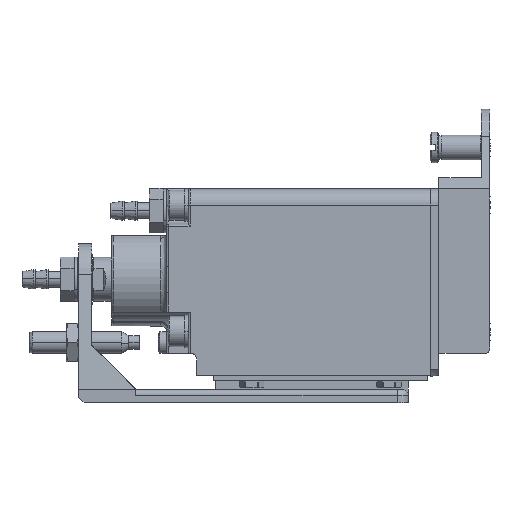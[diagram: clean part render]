
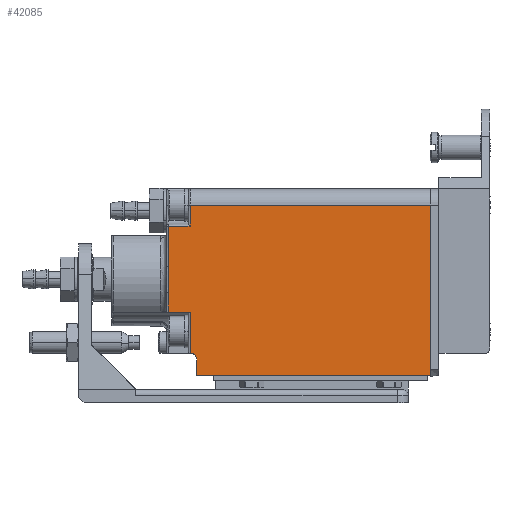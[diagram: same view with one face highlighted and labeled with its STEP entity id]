
A CAD part, left-side view. The second image highlights one B-rep face of the part: STEP entity #42085.
In plain terms, the highlighted planar face has unit normal (-1, 0, 0).
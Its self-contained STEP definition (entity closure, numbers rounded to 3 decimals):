
#558 = ORIENTED_EDGE ( 'NONE', *, *, #44355, .F. ) ;
#738 = DIRECTION ( 'NONE',  ( 0., 0., 1. ) ) ;
#1296 = DIRECTION ( 'NONE',  ( 0., 0., -1. ) ) ;
#1549 = LINE ( 'NONE', #12698, #11465 ) ;
#2262 = CARTESIAN_POINT ( 'NONE',  ( -9.5, 47.7, 0.369 ) ) ;
#3436 = EDGE_CURVE ( 'NONE', #4673, #6870, #4095, .T. ) ;
#4095 = LINE ( 'NONE', #37203, #22807 ) ;
#4617 = ORIENTED_EDGE ( 'NONE', *, *, #21597, .T. ) ;
#4673 = VERTEX_POINT ( 'NONE', #14567 ) ;
#5223 = CARTESIAN_POINT ( 'NONE',  ( -9.5, 43.87, 7.7 ) ) ;
#5481 = CARTESIAN_POINT ( 'NONE',  ( -9.5, 45.75, -15.5 ) ) ;
#6307 = CARTESIAN_POINT ( 'NONE',  ( -9.5, 0., -19.5 ) ) ;
#6394 = CARTESIAN_POINT ( 'NONE',  ( -9.5, 47.74, -1.887 ) ) ;
#6425 = EDGE_CURVE ( 'NONE', #30104, #17817, #40625, .T. ) ;
#6449 = VERTEX_POINT ( 'NONE', #14341 ) ;
#6837 = VECTOR ( 'NONE', #1296, 1000. ) ;
#6870 = VERTEX_POINT ( 'NONE', #31870 ) ;
#7520 = VERTEX_POINT ( 'NONE', #44045 ) ;
#7714 = VECTOR ( 'NONE', #41717, 1000. ) ;
#7930 = EDGE_LOOP ( 'NONE', ( #17458, #558, #34887, #32907, #18338, #19419, #4617, #36837, #14420, #30107, #44771, #21188, #17574 ) ) ;
#8363 = VECTOR ( 'NONE', #46367, 1000. ) ;
#8486 = EDGE_CURVE ( 'NONE', #28147, #22363, #16890, .T. ) ;
#8955 = DIRECTION ( 'NONE',  ( 0., 0., 1. ) ) ;
#9109 = CARTESIAN_POINT ( 'NONE',  ( -9.5, 43.5, -15.5 ) ) ;
#9270 = EDGE_CURVE ( 'NONE', #37508, #4673, #1549, .T. ) ;
#9766 = VERTEX_POINT ( 'NONE', #14842 ) ;
#10033 = VECTOR ( 'NONE', #15135, 1000. ) ;
#10144 = CARTESIAN_POINT ( 'NONE',  ( -9.5, 47.7, -0.083 ) ) ;
#10783 = EDGE_CURVE ( 'NONE', #26158, #37508, #39950, .T. ) ;
#11365 = CARTESIAN_POINT ( 'NONE',  ( -9.5, 43.87, -19.5 ) ) ;
#11465 = VECTOR ( 'NONE', #8955, 1000. ) ;
#11848 = VECTOR ( 'NONE', #40396, 1000. ) ;
#11951 = DIRECTION ( 'NONE',  ( 1., 0., 0. ) ) ;
#12038 = CARTESIAN_POINT ( 'NONE',  ( -9.5, 42.5, -19.5 ) ) ;
#12231 = CARTESIAN_POINT ( 'NONE',  ( -9.5, 47.7, -4. ) ) ;
#12483 = VECTOR ( 'NONE', #41231, 1000. ) ;
#12698 = CARTESIAN_POINT ( 'NONE',  ( -9.5, 0., -4. ) ) ;
#12707 = EDGE_CURVE ( 'NONE', #7520, #6449, #19489, .T. ) ;
#14177 = CARTESIAN_POINT ( 'NONE',  ( -9.5, 47.7, -4. ) ) ;
#14341 = CARTESIAN_POINT ( 'NONE',  ( -9.5, 47.7, 7.7 ) ) ;
#14420 = ORIENTED_EDGE ( 'NONE', *, *, #10783, .T. ) ;
#14567 = CARTESIAN_POINT ( 'NONE',  ( -9.5, 0., 11.5 ) ) ;
#14842 = CARTESIAN_POINT ( 'NONE',  ( -9.5, 42.5, -16.5 ) ) ;
#14984 = CARTESIAN_POINT ( 'NONE',  ( -9.5, 43.7, -4. ) ) ;
#15135 = DIRECTION ( 'NONE',  ( 0., -1., 0. ) ) ;
#15596 = EDGE_CURVE ( 'NONE', #43115, #22363, #37635, .T. ) ;
#15851 = LINE ( 'NONE', #12231, #35828 ) ;
#16890 = LINE ( 'NONE', #5481, #35668 ) ;
#17458 = ORIENTED_EDGE ( 'NONE', *, *, #44682, .T. ) ;
#17574 = ORIENTED_EDGE ( 'NONE', *, *, #12707, .T. ) ;
#17791 = LINE ( 'NONE', #14984, #12483 ) ;
#17817 = VERTEX_POINT ( 'NONE', #42371 ) ;
#18338 = ORIENTED_EDGE ( 'NONE', *, *, #15596, .T. ) ;
#18345 = CARTESIAN_POINT ( 'NONE',  ( -9.5, 43.7, -15.5 ) ) ;
#18835 = DIRECTION ( 'NONE',  ( 0., 1., 0. ) ) ;
#19254 = EDGE_CURVE ( 'NONE', #6870, #7520, #17791, .T. ) ;
#19419 = ORIENTED_EDGE ( 'NONE', *, *, #8486, .F. ) ;
#19489 = LINE ( 'NONE', #5223, #8363 ) ;
#19583 = LINE ( 'NONE', #41303, #39562 ) ;
#20080 = EDGE_CURVE ( 'NONE', #9766, #26158, #26743, .T. ) ;
#21188 = ORIENTED_EDGE ( 'NONE', *, *, #19254, .T. ) ;
#21597 = EDGE_CURVE ( 'NONE', #28147, #9766, #41829, .T. ) ;
#22363 = VERTEX_POINT ( 'NONE', #18345 ) ;
#22807 = VECTOR ( 'NONE', #48500, 1000. ) ;
#22947 = PLANE ( 'NONE',  #40591 ) ;
#23110 = DIRECTION ( 'NONE',  ( -1., 0., 0. ) ) ;
#25051 = CARTESIAN_POINT ( 'NONE',  ( -9.5, 47.7, -4.369 ) ) ;
#26158 = VERTEX_POINT ( 'NONE', #12038 ) ;
#26456 = CARTESIAN_POINT ( 'NONE',  ( -9.5, 43.7, -4. ) ) ;
#26743 = LINE ( 'NONE', #46159, #6837 ) ;
#27824 = CARTESIAN_POINT ( 'NONE',  ( -9.5, 43.7, -8. ) ) ;
#28147 = VERTEX_POINT ( 'NONE', #9109 ) ;
#28863 = CARTESIAN_POINT ( 'NONE',  ( -9.5, 47.728, -3.015 ) ) ;
#30104 = VERTEX_POINT ( 'NONE', #47222 ) ;
#30107 = ORIENTED_EDGE ( 'NONE', *, *, #9270, .T. ) ;
#30420 = VERTEX_POINT ( 'NONE', #2262 ) ;
#30642 = AXIS2_PLACEMENT_3D ( 'NONE', #34457, #11951, #38227 ) ;
#31870 = CARTESIAN_POINT ( 'NONE',  ( -9.5, 43.7, 11.5 ) ) ;
#32635 = CARTESIAN_POINT ( 'NONE',  ( -9.5, 47.72, -0.759 ) ) ;
#32907 = ORIENTED_EDGE ( 'NONE', *, *, #36536, .F. ) ;
#34457 = CARTESIAN_POINT ( 'NONE',  ( -9.5, 43.5, -16.5 ) ) ;
#34887 = ORIENTED_EDGE ( 'NONE', *, *, #6425, .T. ) ;
#35668 = VECTOR ( 'NONE', #46625, 1000. ) ;
#35828 = VECTOR ( 'NONE', #38531, 1000. ) ;
#36382 = CARTESIAN_POINT ( 'NONE',  ( -9.5, 47.7, 0.369 ) ) ;
#36536 = EDGE_CURVE ( 'NONE', #43115, #17817, #19583, .T. ) ;
#36837 = ORIENTED_EDGE ( 'NONE', *, *, #20080, .T. ) ;
#37203 = CARTESIAN_POINT ( 'NONE',  ( -9.5, 43.87, 11.5 ) ) ;
#37508 = VERTEX_POINT ( 'NONE', #6307 ) ;
#37635 = LINE ( 'NONE', #26456, #7714 ) ;
#38227 = DIRECTION ( 'NONE',  ( 0., 0., -1. ) ) ;
#38531 = DIRECTION ( 'NONE',  ( 0., 0., -1. ) ) ;
#39562 = VECTOR ( 'NONE', #18835, 1000. ) ;
#39950 = LINE ( 'NONE', #11365, #10033 ) ;
#40396 = DIRECTION ( 'NONE',  ( 0., 0., -1. ) ) ;
#40591 = AXIS2_PLACEMENT_3D ( 'NONE', #45602, #23110, #738 ) ;
#40625 = LINE ( 'NONE', #14177, #11848 ) ;
#41231 = DIRECTION ( 'NONE',  ( 0., 0., -1. ) ) ;
#41303 = CARTESIAN_POINT ( 'NONE',  ( -9.5, 45.86, -8. ) ) ;
#41717 = DIRECTION ( 'NONE',  ( 0., 0., -1. ) ) ;
#41829 = CIRCLE ( 'NONE', #30642, 1. ) ;
#42085 = ADVANCED_FACE ( 'NONE', ( #44512 ), #22947, .T. ) ;
#42371 = CARTESIAN_POINT ( 'NONE',  ( -9.5, 47.7, -8. ) ) ;
#43115 = VERTEX_POINT ( 'NONE', #27824 ) ;
#44045 = CARTESIAN_POINT ( 'NONE',  ( -9.5, 43.7, 7.7 ) ) ;
#44355 = EDGE_CURVE ( 'NONE', #30104, #30420, #45963, .T. ) ;
#44512 = FACE_OUTER_BOUND ( 'NONE', #7930, .T. ) ;
#44682 = EDGE_CURVE ( 'NONE', #6449, #30420, #15851, .T. ) ;
#44771 = ORIENTED_EDGE ( 'NONE', *, *, #3436, .T. ) ;
#45602 = CARTESIAN_POINT ( 'NONE',  ( -9.5, 39.226, -22.6 ) ) ;
#45963 = B_SPLINE_CURVE_WITH_KNOTS ( 'NONE', 3,
 ( #25051, #47529, #28863, #6394, #32635, #10144, #36382 ),
 .UNSPECIFIED., .F., .F.,
 ( 4, 1, 1, 1, 4 ),
 ( 0., 0.286, 0.571, 0.714, 1. ),
 .UNSPECIFIED. ) ;
#46159 = CARTESIAN_POINT ( 'NONE',  ( -9.5, 42.5, -4. ) ) ;
#46367 = DIRECTION ( 'NONE',  ( 0., 1., 0. ) ) ;
#46625 = DIRECTION ( 'NONE',  ( 0., 1., 0. ) ) ;
#47222 = CARTESIAN_POINT ( 'NONE',  ( -9.5, 47.7, -4.369 ) ) ;
#47529 = CARTESIAN_POINT ( 'NONE',  ( -9.5, 47.7, -3.917 ) ) ;
#48500 = DIRECTION ( 'NONE',  ( 0., 1., 0. ) ) ;
